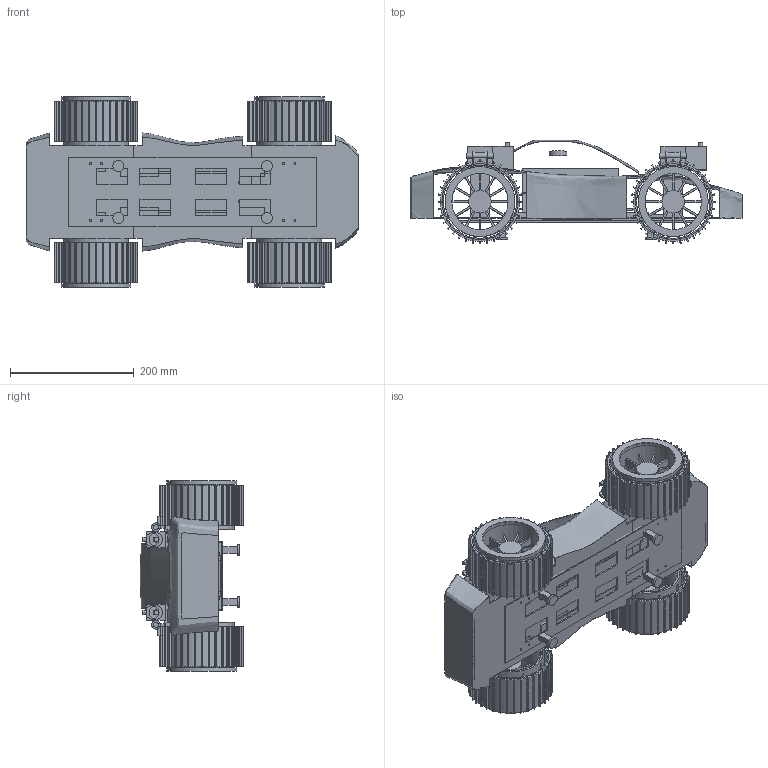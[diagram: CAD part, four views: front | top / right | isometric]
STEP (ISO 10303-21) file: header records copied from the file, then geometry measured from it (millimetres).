
FILE_DESCRIPTION(('Open CASCADE Model'),'2;1');
FILE_NAME('Open CASCADE Shape Model','2026-10-19T03:35:23',('Author'),( 'Open CASCADE'),'Open CASCADE STEP processor 7.9','Open CASCADE 7.9' ,'Unknown');
FILE_SCHEMA(('AUTOMOTIVE_DESIGN { 1 0 10303 214 1 1 1 1 }'));
Length unit declared in the file: millimetre
Products named in the file (34): Joukowsky-Dynamics-Rev08; JDM-101#0; JDM-102#1; JDM-103#2; JDM-104#3; JDM-201#4; JDM-202#5; JDM-203#9; JDM-204#10; JDM-403#11; JDM-404#13; JDM-405#14; JDM-406#15; JDM-408#16; JDM-409#17; JDM-209#18; JDM-205#19; JDM-410#20; JDM-407#22; JDM-402#23; JDM-411#24; JDM-208#25; JDM-206#26; JDM-207#27; JDM-401#28; JDM-209-LH#29; JDM-205-LH#30; JDM-410-LH#31; JDM-407-LH#33; JDM-411-LH#35; JDM-208-LH#36; JDM-206-LH#37; JDM-207-LH#38; JDM-401-LH#39
Assembly tree (62 placements, depth 2):
  Joukowsky-Dynamics-Rev08
    JDM-101#0
    JDM-102#1
    JDM-103#2
    JDM-104#3
    JDM-201#4
    JDM-202#5  x4
    JDM-203#9
    JDM-204#10
    JDM-403#11  x2
    JDM-404#13
    JDM-405#14
    JDM-406#15
    JDM-408#16
    JDM-409#17
    JDM-209#18  x2
    JDM-205#19  x2
    JDM-410#20  x4
    JDM-407#22  x2
    JDM-402#23  x4
    JDM-411#24  x2
    JDM-208#25  x2
    JDM-206#26  x2
    JDM-207#27  x2
    JDM-401#28  x2
    JDM-209-LH#29  x2
    JDM-205-LH#30  x2
    JDM-410-LH#31  x4
    JDM-407-LH#33  x2
    JDM-411-LH#35  x2
    JDM-208-LH#36  x2
    JDM-206-LH#37  x2
    JDM-207-LH#38  x2
    JDM-401-LH#39  x2
Bounding box: 535.86 x 167.14 x 307.53 mm (x, y, z)
Volume: 2963745.5 mm3; surface area: 1802885.1 mm2
Topology: 62 solids, 62 shells, 2127 faces, 5450 edges, 3438 vertices
Faces by surface type: plane 1820, cylinder 291, bspline 16
Full cylindrical faces by diameter (mm): 3.2 x24, 7 x4, 8 x12, 8.4 x4, 14 x4, 18 x4, 22 x8, 28 x1, 36 x4, 90.8 x4, 94 x4, 98 x4, 98.8 x4, 104.8 x4, 112.8 x4, 122.267 x8
Entity records: 230804 total; most frequent: CARTESIAN_POINT 172685, DIRECTION 10410, LINE 6447, VECTOR 6447, ORIENTED_EDGE 5800, PCURVE 5800, DEFINITIONAL_REPRESENTATION 5800, EDGE_CURVE 2900
